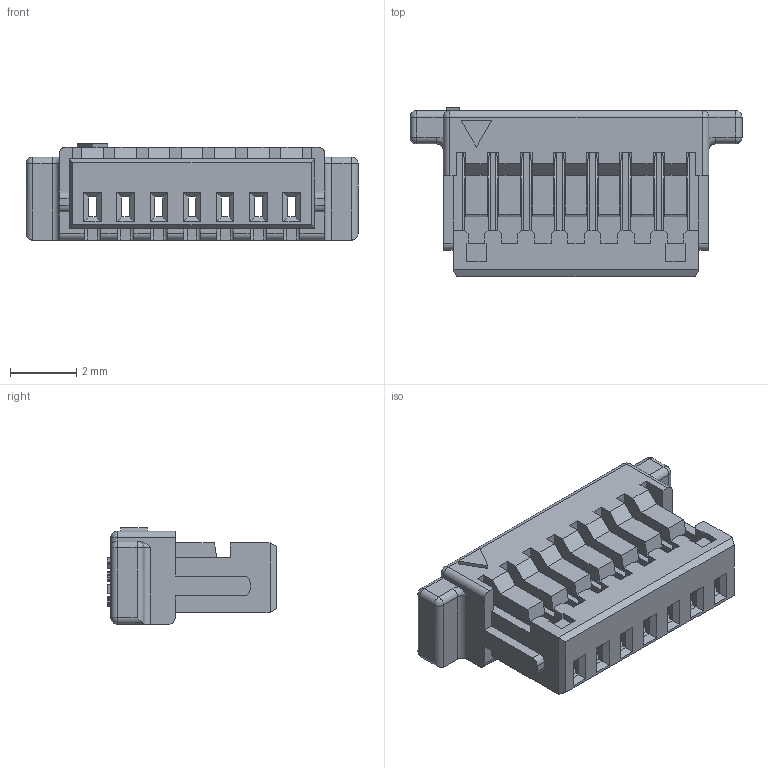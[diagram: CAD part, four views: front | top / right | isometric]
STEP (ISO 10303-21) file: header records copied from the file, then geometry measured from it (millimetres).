
FILE_DESCRIPTION((''),'2;1');
FILE_NAME('S-50233-007HXXX-XXX','2010-11-22T',('ouchwu'),(''),'PRO/ENGINEER BY PARAMETRIC TECHNOLOGY CORPORATION, 2007450','PRO/ENGINEER BY PARAMETRIC TECHNOLOGY CORPORATION, 2007450','');
FILE_SCHEMA(('CONFIG_CONTROL_DESIGN'));
Length unit declared in the file: millimetre
Products named in the file (1): S-50233-007HXXX-XXX
Bounding box: 10 x 5.1 x 2.9 mm (x, y, z)
Volume: 51.5 mm3; surface area: 321.3 mm2
Topology: 1 solids, 1 shells, 578 faces, 1633 edges, 1048 vertices
Faces by surface type: plane 522, cylinder 46, sphere 8, torus 2
Entity records: 18317 total; most frequent: CARTESIAN_POINT 3300, ORIENTED_EDGE 3250, DIRECTION 2861, EDGE_CURVE 1625, VECTOR 1531, LINE 1531, VERTEX_POINT 1048, AXIS2_PLACEMENT_3D 665
